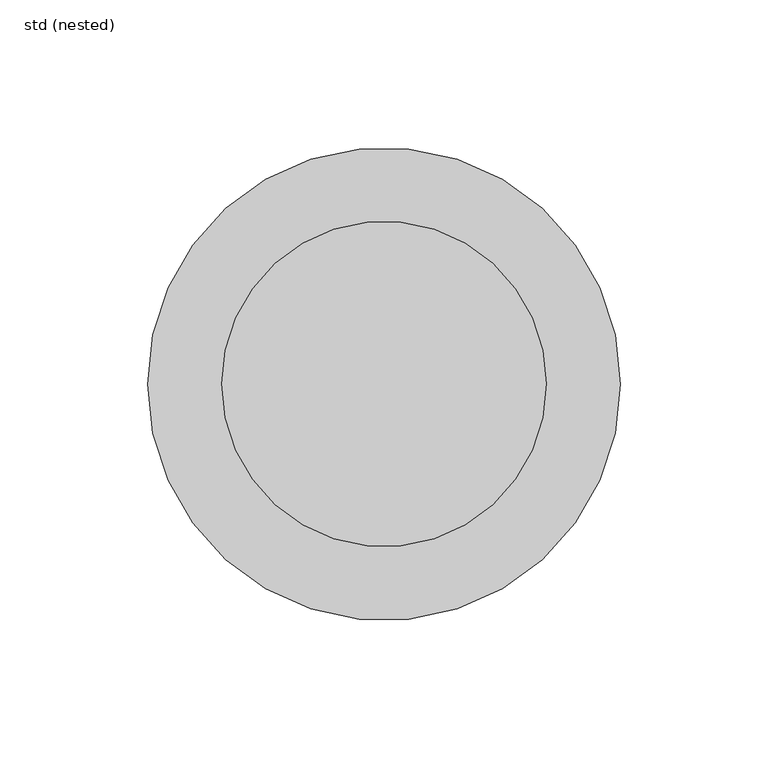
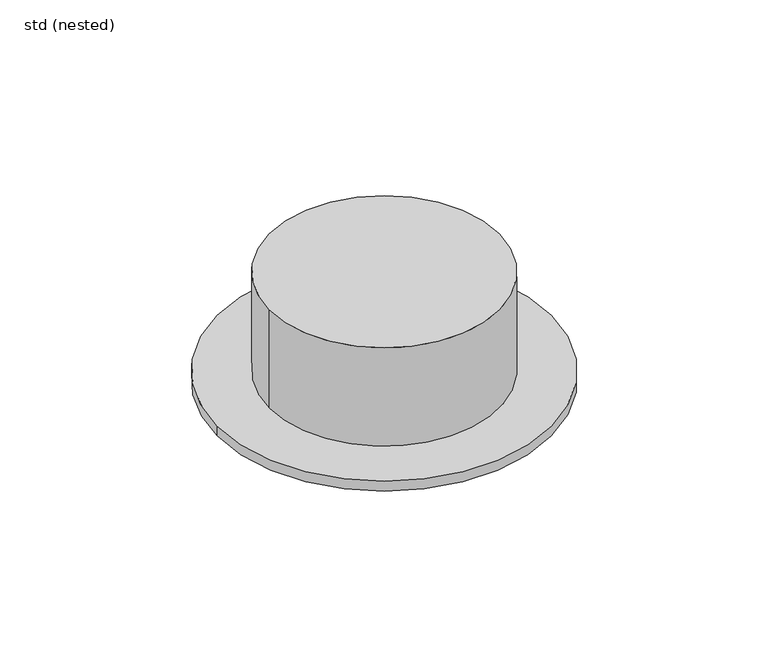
"""IFC4 building model written with IfcOpenShell, lengths in millimetres: sanitary terminal geometry, ZZZ_do not use_PF_ST_WPB_pilot tube for Passavant Jet_ACO : std (nested)."""

import ifcopenshell
import ifcopenshell.guid

model = None  # the IFC model being written
_history = None  # IfcOwnerHistory: only IFC2X3 demands one
_inside = {}  # id of a spatial element -> (the spatial element, [elements in it])
_under = {}  # id of a project, library or spatial element -> (it, [spatial elements below it])
_declared = {}  # id of a project -> (the project, [libraries it declares])
_typed = {}  # id of a type object -> (the type object, [elements of that type])
_made_of = {}  # id of a material, layer set ... -> (it, [elements and type objects made of it])


def new_model(schema):
    """Start an empty IFC model of exactly this schema.

    Asked for "IFC4X3", IfcOpenShell would pick the latest addendum, in which some entities
    have other attributes; the version numbers below select the first issue.
    IFC2X3 requires an IfcOwnerHistory on every rooted entity: one is made here for all.
    """
    global model, _history
    if schema == "IFC4X3":
        model = ifcopenshell.file(schema_version=(4, 3, 0, 0))
    else:
        model = ifcopenshell.file(schema=schema)
    _inside.clear()
    _under.clear()
    _declared.clear()
    _typed.clear()
    _made_of.clear()
    _history = None
    if model.schema == "IFC2X3":
        org = make("IfcOrganization", Name="unknown")
        user = make(
            "IfcPersonAndOrganization",
            ThePerson=make("IfcPerson", FamilyName="unknown"),
            TheOrganization=org,
        )
        app = make(
            "IfcApplication",
            ApplicationDeveloper=org,
            Version="unknown",
            ApplicationFullName="unknown",
            ApplicationIdentifier="unknown",
        )
        _history = make(
            "IfcOwnerHistory",
            OwningUser=user,
            OwningApplication=app,
            ChangeAction="ADDED",
            CreationDate=0,
        )
    return model


def make(cls, **values):
    """One entity of the class cls with the attributes given. An attribute that is None is left unset."""
    return model.create_entity(
        cls, **{name: value for name, value in values.items() if value is not None}
    )


def rooted(cls, **values):
    """An entity with a GlobalId (a new one), such as an element, a storey or a relation."""
    return make(cls, GlobalId=ifcopenshell.guid.new(), OwnerHistory=_history, **values)


def si_unit(unit_type, name, prefix=None):
    """IfcSIUnit, for example si_unit("LENGTHUNIT", "METRE", prefix="MILLI")."""
    return make("IfcSIUnit", UnitType=unit_type, Prefix=prefix, Name=name)


def assignment(units):
    """IfcUnitAssignment: the units of a project."""
    return None if units is None else make("IfcUnitAssignment", Units=units)


def point(xyz):
    """IfcCartesianPoint."""
    return None if xyz is None else make("IfcCartesianPoint", Coordinates=xyz)


def direction(xyz):
    """IfcDirection."""
    return None if xyz is None else make("IfcDirection", DirectionRatios=xyz)


def frame(location, z_axis=None, x_axis=None):
    """IfcAxis2Placement3D, a coordinate frame: its origin and axes. An axis left out is left unset."""
    return make(
        "IfcAxis2Placement3D",
        Location=point(location),
        Axis=direction(z_axis),
        RefDirection=direction(x_axis),
    )


def frame_2d(location, x_axis=None):
    """IfcAxis2Placement2D, a coordinate frame in the plane: its origin and x axis."""
    return make(
        "IfcAxis2Placement2D", Location=point(location), RefDirection=direction(x_axis)
    )


def origin():
    """The frame at (0, 0, 0) with its axes left unset."""
    return frame((0.0, 0.0, 0.0))


def origin_with_axes():
    """The frame at (0, 0, 0) with the z axis (0, 0, 1) and the x axis (1, 0, 0) written out."""
    return frame((0.0, 0.0, 0.0), z_axis=(0.0, 0.0, 1.0), x_axis=(1.0, 0.0, 0.0))


def origin_2d():
    """The frame at (0, 0) in the plane with its x axis left unset."""
    return frame_2d((0.0, 0.0))


def place(relative_to, where):
    """IfcLocalPlacement: puts the frame where relative to a parent placement (None: the world)."""
    return make(
        "IfcLocalPlacement", PlacementRelTo=relative_to, RelativePlacement=where
    )


def context(
    kind, dimensions, precision=None, world=None, true_north=None, identifier=None
):
    """IfcGeometricRepresentationContext, for example the 3D "Model" context."""
    return make(
        "IfcGeometricRepresentationContext",
        ContextIdentifier=identifier,
        ContextType=kind,
        CoordinateSpaceDimension=dimensions,
        Precision=precision,
        WorldCoordinateSystem=world,
        TrueNorth=true_north,
    )


def project(units=None, contexts=None):
    """IfcProject with its units and contexts."""
    return rooted(
        "IfcProject",
        Name="project",
        RepresentationContexts=contexts,
        UnitsInContext=assignment(units),
    )


def spatial(cls, under=None, at=None, **own):
    """A site, building, storey or space (cls), placed at a placement, below another one or the project."""
    s = rooted(cls, ObjectPlacement=at, **own)
    if under is not None:
        _under.setdefault(under.id(), (under, []))[1].append(s)
    return s


def circle_curve(where, radius):
    """IfcCircle in the frame where."""
    return make("IfcCircle", Position=where, Radius=radius)


def trimmed(basis, trim1, trim2, sense, master):
    """IfcTrimmedCurve: the piece of a basis curve between two trims."""
    return make(
        "IfcTrimmedCurve",
        BasisCurve=basis,
        Trim1=trim1,
        Trim2=trim2,
        SenseAgreement=sense,
        MasterRepresentation=master,
    )


def segment(curve, same_sense, transition):
    """IfcCompositeCurveSegment."""
    return make(
        "IfcCompositeCurveSegment",
        Transition=transition,
        SameSense=same_sense,
        ParentCurve=curve,
    )


def composite_curve(segments, self_intersect=None):
    """IfcCompositeCurve: segments joined end to end."""
    return make("IfcCompositeCurve", Segments=segments, SelfIntersect=self_intersect)


def outline(outer, holes=None, kind="AREA"):
    """IfcArbitraryClosedProfileDef: a profile drawn as a closed curve; with holes, ...WithVoids."""
    if holes is None:
        return make("IfcArbitraryClosedProfileDef", ProfileType=kind, OuterCurve=outer)
    return make(
        "IfcArbitraryProfileDefWithVoids",
        ProfileType=kind,
        OuterCurve=outer,
        InnerCurves=holes,
    )


def extrude(swept, where, along, depth):
    """IfcExtrudedAreaSolid: the profile swept, set in the frame where, extruded along a direction by depth."""
    return make(
        "IfcExtrudedAreaSolid",
        SweptArea=swept,
        Position=where,
        ExtrudedDirection=direction(along),
        Depth=depth,
    )


def shape(context_of_items, identifier, shape_type, items):
    """IfcShapeRepresentation: the items that make up one representation, for example the "Body"."""
    return make(
        "IfcShapeRepresentation",
        ContextOfItems=context_of_items,
        RepresentationIdentifier=identifier,
        RepresentationType=shape_type,
        Items=items,
    )


def source(mapping_origin, context_of_items, identifier, shape_type, items):
    """IfcRepresentationMap: a shape defined once, which mapped items show again and again."""
    return make(
        "IfcRepresentationMap",
        MappingOrigin=mapping_origin,
        MappedRepresentation=shape(context_of_items, identifier, shape_type, items),
    )


def transform(
    local_origin,
    x_axis=None,
    y_axis=None,
    z_axis=None,
    scale=None,
    scale2=None,
    scale3=None,
    uniform=True,
):
    """IfcCartesianTransformationOperator3D, or its non-uniform kind. x_axis, y_axis, z_axis: its Axis1, 2, 3."""
    if uniform:
        return make(
            "IfcCartesianTransformationOperator3D",
            Axis1=direction(x_axis),
            Axis2=direction(y_axis),
            LocalOrigin=point(local_origin),
            Scale=scale,
            Axis3=direction(z_axis),
        )
    return make(
        "IfcCartesianTransformationOperator3DnonUniform",
        Axis1=direction(x_axis),
        Axis2=direction(y_axis),
        LocalOrigin=point(local_origin),
        Scale=scale,
        Axis3=direction(z_axis),
        Scale2=scale2,
        Scale3=scale3,
    )


def mapped(mapping_source, mapping_target):
    """IfcMappedItem: shows the shape of a source again, moved by a transform."""
    return make(
        "IfcMappedItem", MappingSource=mapping_source, MappingTarget=mapping_target
    )


def made_of(thing, what):
    """Note that an element or type object is made of a material, layer set ...; save() writes the relation."""
    if what is not None:
        _made_of.setdefault(what.id(), (what, []))[1].append(thing)
    return thing


def element(
    cls,
    number,
    at=None,
    inside=None,
    cuts=None,
    type_object=None,
    material=None,
    context=None,
    identifier="Body",
    shape_type=None,
    held_by="IfcProductDefinitionShape",
    body=None,
    shapes=None,
    **own,
):
    """One element of the class cls, such as IfcWall. Its Tag is "e" and its number.

    at: its placement. inside: the storey or other place that contains it. cuts: it is an
    opening in that element (IfcRelVoidsElement). A single representation is given by context,
    identifier, shape_type and body (its items); several are given by shapes. held_by: the class
    of the entity that holds the representations. save() writes the other relations.
    """
    e = rooted(cls, Tag="e%d" % number, ObjectPlacement=at, **own)
    if body is not None:
        shapes = [shape(context, identifier, shape_type, body)]
    if shapes is not None:
        e.Representation = make(held_by, Representations=shapes)
    if inside is not None:
        _inside.setdefault(inside.id(), (inside, []))[1].append(e)
    if cuts is not None:
        rooted(
            "IfcRelVoidsElement", RelatingBuildingElement=cuts, RelatedOpeningElement=e
        )
    if type_object is not None:
        _typed.setdefault(type_object.id(), (type_object, []))[1].append(e)
    return made_of(e, material)


def aggregate(whole, parts):
    """IfcRelAggregates: a whole, such as a stair, and the parts it consists of."""
    return rooted("IfcRelAggregates", RelatingObject=whole, RelatedObjects=parts)


def save(model, path):
    """Write the relations noted so far, then the file.

    IfcRelAggregates (storeys below a building ...), IfcRelContainedInSpatialStructure (elements
    in a storey), IfcRelDefinesByType, IfcRelAssociatesMaterial and IfcRelDeclares: one each for
    every whole, place, type object, material and project.
    """
    for whole, parts in _under.values():
        aggregate(whole, parts)
    for where, things in _inside.values():
        rooted(
            "IfcRelContainedInSpatialStructure",
            RelatedElements=things,
            RelatingStructure=where,
        )
    for kind, things in _typed.values():
        rooted("IfcRelDefinesByType", RelatedObjects=things, RelatingType=kind)
    for what, things in _made_of.values():
        rooted("IfcRelAssociatesMaterial", RelatedObjects=things, RelatingMaterial=what)
    for by, libraries in _declared.values():
        rooted("IfcRelDeclares", RelatingContext=by, RelatedDefinitions=libraries)
    model.write(path)


def std_nested_2ed47152(model_context):
    return source(origin(), model_context, "Body", "SweptSolid", [
        extrude(outline(composite_curve([segment(trimmed(circle_curve(origin_2d(), 80.0), [point((-80.0, 0.0))], [point((80.0, 0.0))], False, "CARTESIAN"), True, "CONTINUOUS"), segment(trimmed(circle_curve(origin_2d(), 80.0), [point((80.0, 0.0))], [point((-80.0, 0.0))], False, "CARTESIAN"), True, "CONTINUOUS")], self_intersect=False)), origin_with_axes(), (0.0, 0.0, 1.0), 5.0),
        extrude(outline(composite_curve([segment(trimmed(circle_curve(origin_2d(), 55.0), [point((-55.0, 0.0))], [point((55.0, 0.0))], False, "CARTESIAN"), True, "CONTINUOUS"), segment(trimmed(circle_curve(origin_2d(), 55.0), [point((55.0, 0.0))], [point((-55.0, 0.0))], False, "CARTESIAN"), True, "CONTINUOUS")], self_intersect=False)), origin_with_axes(), (0.0, 0.0, 1.0), 55.0),
    ])


if __name__ == "__main__":
    model = new_model("IFC4")
    model_context = context("Model", 3, world=origin())
    ifc_project = project(units=[si_unit("LENGTHUNIT", "METRE", prefix="MILLI")], contexts=[model_context])
    site = spatial("IfcSite", under=ifc_project)
    building = spatial("IfcBuilding", under=site)
    placement = place(None, origin())
    std_nested_shape = std_nested_2ed47152(model_context)
    element("IfcSanitaryTerminal", 1, ObjectType="ZZZ_do not use_PF_ST_WPB_pilot tube for Passavant Jet_ACO : std (nested)", at=placement, inside=building, context=model_context, shape_type="MappedRepresentation", body=[
        mapped(std_nested_shape, transform((0.0, 0.0, 0.0), x_axis=(1.0, 0.0, 0.0), y_axis=(0.0, 1.0, 0.0), z_axis=(0.0, 0.0, 1.0))),
    ])
    save(model, "model.ifc")
